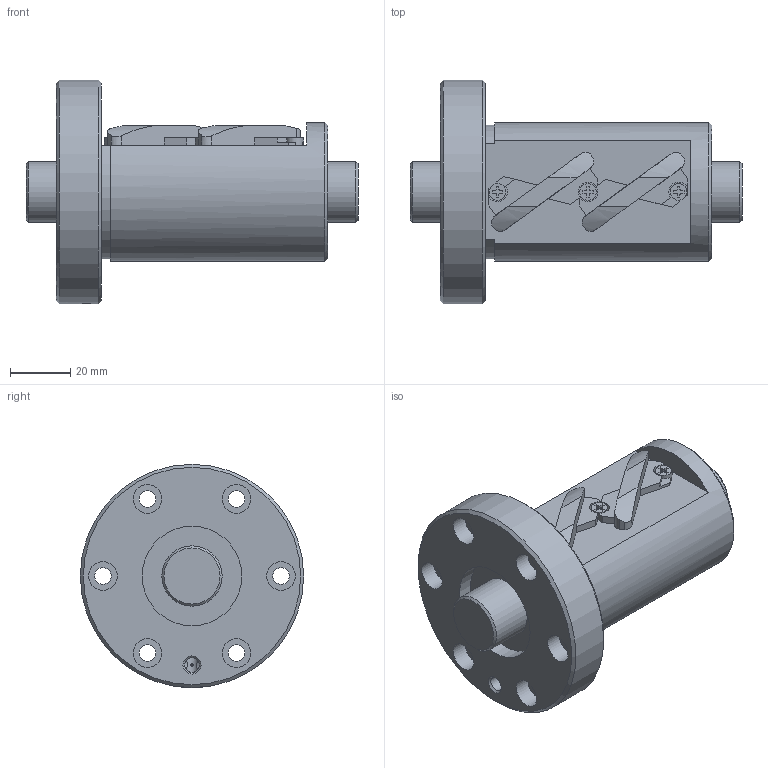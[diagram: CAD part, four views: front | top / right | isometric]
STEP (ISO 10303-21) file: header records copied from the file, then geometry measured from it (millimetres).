
FILE_DESCRIPTION(/* description */ ('STEP AP203'),/* implementation_level */ '2;1');
FILE_NAME(/* name */ 'BIF2010V-5RRG0+110LC0_000',/* time_stamp */ '2024-07-15T08:17:08+02:00',/* author */ ('License CC BY-ND 4.0'),/* organization */ ('CADENAS'),/* preprocessor_version */ 'ST-DEVELOPER v19.3',/* originating_system */ 'PARTsolutions',/* authorisation */ ' ');
FILE_SCHEMA (('CONFIG_CONTROL_DESIGN'));
Length unit declared in the file: millimetre
Products named in the file (3): BIF2010V-5RRG0+110LC0_000; BIF2010V-5RR000 Shaft; BIF2010V-5RR Nut
Assembly tree (2 placements, depth 2):
  BIF2010V-5RRG0+110LC0_000
    BIF2010V-5RR000 Shaft
    BIF2010V-5RR Nut
Bounding box: 110 x 74 x 74 mm (x, y, z)
Volume: 176633.5 mm3; surface area: 39380 mm2
Topology: 2 solids, 2 shells, 168 faces, 433 edges, 287 vertices
Faces by surface type: plane 106, cylinder 53, cone 9
Full cylindrical faces by diameter (mm): 4 x2, 4.917 x1, 5.5 x9, 9.5 x6, 20 x2, 33 x2, 46 x1, 74 x1
Entity records: 5014 total; most frequent: CARTESIAN_POINT 938, DIRECTION 824, ORIENTED_EDGE 774, EDGE_CURVE 387, AXIS2_PLACEMENT_3D 281, VERTEX_POINT 276, LINE 262, VECTOR 262
